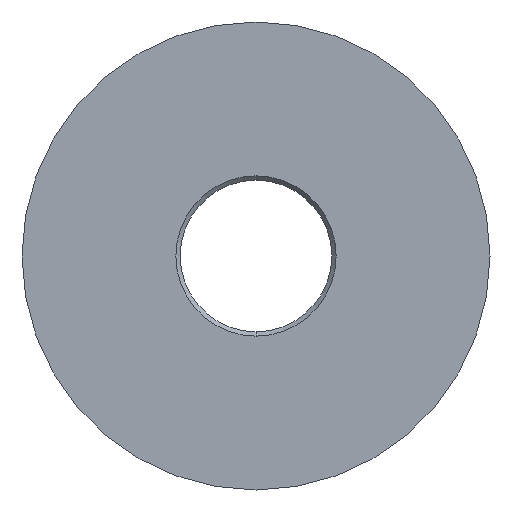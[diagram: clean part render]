
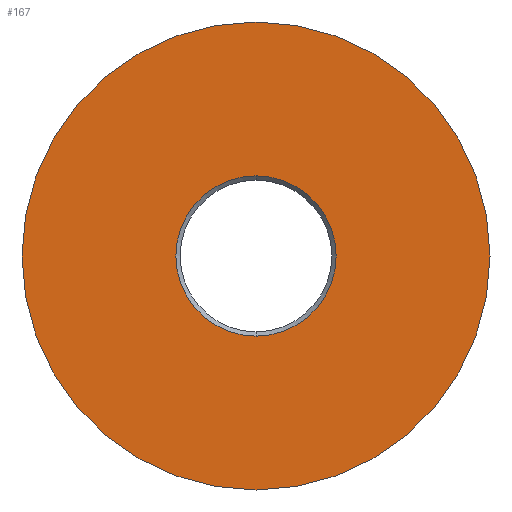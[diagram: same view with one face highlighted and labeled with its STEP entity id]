
A CAD part, front view. The second image highlights one B-rep face of the part: STEP entity #167.
In plain terms, the highlighted planar face has unit normal (0, -1, 0).
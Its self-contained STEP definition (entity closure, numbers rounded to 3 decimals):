
#5 = CARTESIAN_POINT ( 'NONE',  ( 27.01, 0., 0. ) ) ;
#16 = DIRECTION ( 'NONE',  ( 0., -1., 0. ) ) ;
#21 = DIRECTION ( 'NONE',  ( 0., 1., 0. ) ) ;
#51 = CARTESIAN_POINT ( 'NONE',  ( 0., 0., 9.25 ) ) ;
#52 = CARTESIAN_POINT ( 'NONE',  ( 0., 0., -27.01 ) ) ;
#61 = DIRECTION ( 'NONE',  ( 0., -1., 0. ) ) ;
#79 = EDGE_LOOP ( 'NONE', ( #389, #347 ) ) ;
#114 = VERTEX_POINT ( 'NONE', #297 ) ;
#138 = AXIS2_PLACEMENT_3D ( 'NONE', #429, #21, #465 ) ;
#148 = VERTEX_POINT ( 'NONE', #52 ) ;
#162 = ORIENTED_EDGE ( 'NONE', *, *, #421, .T. ) ;
#167 = ADVANCED_FACE ( 'NONE', ( #485, #565 ), #544, .T. ) ;
#182 = DIRECTION ( 'NONE',  ( 0., 0., -1. ) ) ;
#184 = CIRCLE ( 'NONE', #413, 27.01 ) ;
#194 = DIRECTION ( 'NONE',  ( 0., 0., -1. ) ) ;
#197 = CIRCLE ( 'NONE', #500, 27.01 ) ;
#202 = CARTESIAN_POINT ( 'NONE',  ( 0., 0., 0. ) ) ;
#211 = CIRCLE ( 'NONE', #333, 9.25 ) ;
#242 = CARTESIAN_POINT ( 'NONE',  ( 0., 0., 27.01 ) ) ;
#268 = CIRCLE ( 'NONE', #138, 9.25 ) ;
#280 = ORIENTED_EDGE ( 'NONE', *, *, #488, .T. ) ;
#297 = CARTESIAN_POINT ( 'NONE',  ( 0., 0., -9.25 ) ) ;
#311 = DIRECTION ( 'NONE',  ( 0., 0., -1. ) ) ;
#333 = AXIS2_PLACEMENT_3D ( 'NONE', #542, #545, #182 ) ;
#347 = ORIENTED_EDGE ( 'NONE', *, *, #476, .T. ) ;
#360 = DIRECTION ( 'NONE',  ( 0., 0., -1. ) ) ;
#365 = DIRECTION ( 'NONE',  ( 0., -1., 0. ) ) ;
#389 = ORIENTED_EDGE ( 'NONE', *, *, #441, .T. ) ;
#409 = VERTEX_POINT ( 'NONE', #51 ) ;
#413 = AXIS2_PLACEMENT_3D ( 'NONE', #202, #61, #194 ) ;
#421 = EDGE_CURVE ( 'NONE', #148, #528, #197, .T. ) ;
#429 = CARTESIAN_POINT ( 'NONE',  ( 0., 0., 0. ) ) ;
#441 = EDGE_CURVE ( 'NONE', #114, #409, #211, .T. ) ;
#465 = DIRECTION ( 'NONE',  ( 0., 0., -1. ) ) ;
#476 = EDGE_CURVE ( 'NONE', #409, #114, #268, .T. ) ;
#485 = FACE_BOUND ( 'NONE', #79, .T. ) ;
#488 = EDGE_CURVE ( 'NONE', #528, #148, #184, .T. ) ;
#493 = AXIS2_PLACEMENT_3D ( 'NONE', #5, #365, #311 ) ;
#499 = CARTESIAN_POINT ( 'NONE',  ( 0., 0., 0. ) ) ;
#500 = AXIS2_PLACEMENT_3D ( 'NONE', #499, #16, #360 ) ;
#528 = VERTEX_POINT ( 'NONE', #242 ) ;
#542 = CARTESIAN_POINT ( 'NONE',  ( 0., 0., 0. ) ) ;
#544 = PLANE ( 'NONE',  #493 ) ;
#545 = DIRECTION ( 'NONE',  ( 0., 1., 0. ) ) ;
#552 = EDGE_LOOP ( 'NONE', ( #162, #280 ) ) ;
#565 = FACE_OUTER_BOUND ( 'NONE', #552, .T. ) ;
